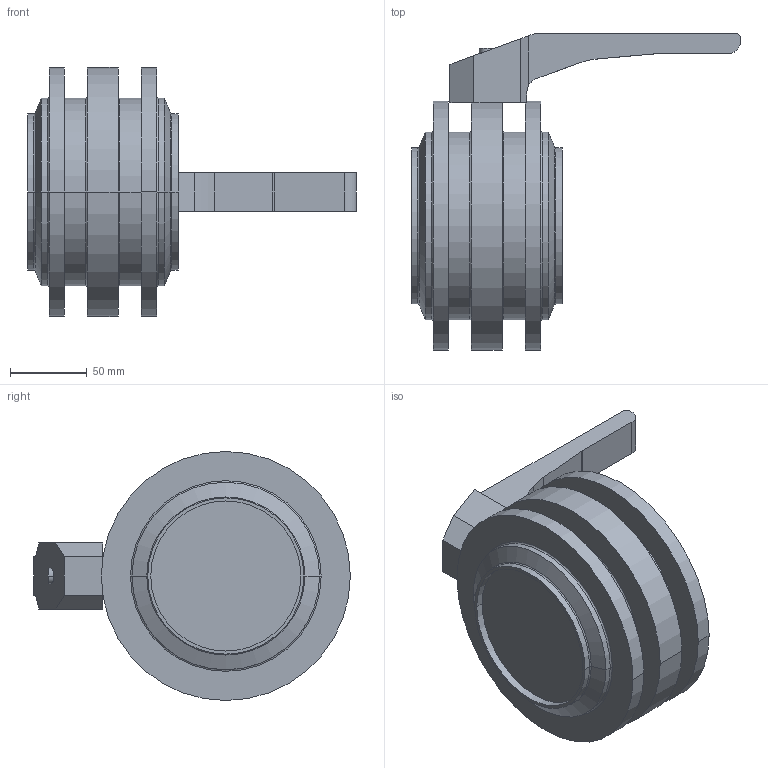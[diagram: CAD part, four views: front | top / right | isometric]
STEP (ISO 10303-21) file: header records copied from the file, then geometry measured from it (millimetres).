
FILE_DESCRIPTION(('OneSpaceDesigner STEP Export'),'2;1');
FILE_NAME('SVS1F-4zoll-H-12S.stp','2007-04-23T14:23:01',(''),(''),'OneSpace Designer STEP processor for AP214 (Solid Model)','OneSpace Modeling 15.00 06-Feb-2007 (C) CoCreate Software GmbH','');
FILE_SCHEMA(('AUTOMOTIVE_DESIGN { 1 0 10303 214 1 1 1 1 }'));
Length unit declared in the file: millimetre
Products named in the file (3): SVS1F-4zoll-H-12S; Handhebel-SV-40-100; SVS1F-4zoll-H-12S-vereint
Assembly tree (2 placements, depth 2):
  SVS1F-4zoll-H-12S-vereint
    Handhebel-SV-40-100
    SVS1F-4zoll-H-12S
Bounding box: 214 x 206 x 162 mm (x, y, z)
Volume: 1505088.3 mm3; surface area: 139652.4 mm2
Topology: 2 solids, 2 shells, 76 faces, 167 edges, 104 vertices
Faces by surface type: cylinder 31, plane 29, torus 12, cone 4
Entity records: 2299 total; most frequent: CARTESIAN_POINT 687, ORIENTED_EDGE 334, DIRECTION 303, EDGE_CURVE 167, AXIS2_PLACEMENT_3D 113, VERTEX_POINT 104, EDGE_LOOP 85, VECTOR 77
